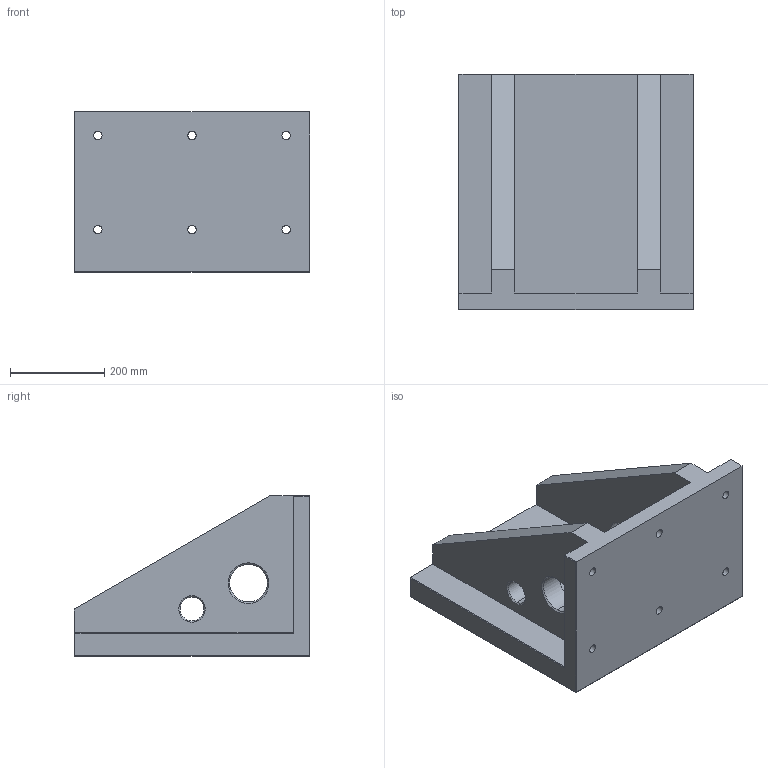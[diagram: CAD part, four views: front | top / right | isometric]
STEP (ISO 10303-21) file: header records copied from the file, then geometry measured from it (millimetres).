
FILE_DESCRIPTION((''),'2;1');
FILE_NAME('FG_WH_ANGPL_ANPLNNP002','2026-05-22T11:26:41',('Admin'),(''),'CREO PARAMETRIC BY PTC INC, 2025010','CREO PARAMETRIC BY PTC INC, 2025010','');
FILE_SCHEMA(('CONFIG_CONTROL_DESIGN'));
Length unit declared in the file: millimetre
Products named in the file (1): FG_WH_ANGPL_ANPLNNP002
Bounding box: 500 x 500 x 340 mm (x, y, z)
Volume: 25310621.3 mm3; surface area: 1250201.5 mm2
Topology: 1 solids, 1 shells, 77 faces, 193 edges, 124 vertices
Faces by surface type: plane 37, cylinder 32, cone 8
Entity records: 2385 total; most frequent: DIRECTION 419, CARTESIAN_POINT 394, ORIENTED_EDGE 386, EDGE_CURVE 193, AXIS2_PLACEMENT_3D 149, VERTEX_POINT 124, VECTOR 121, LINE 121
